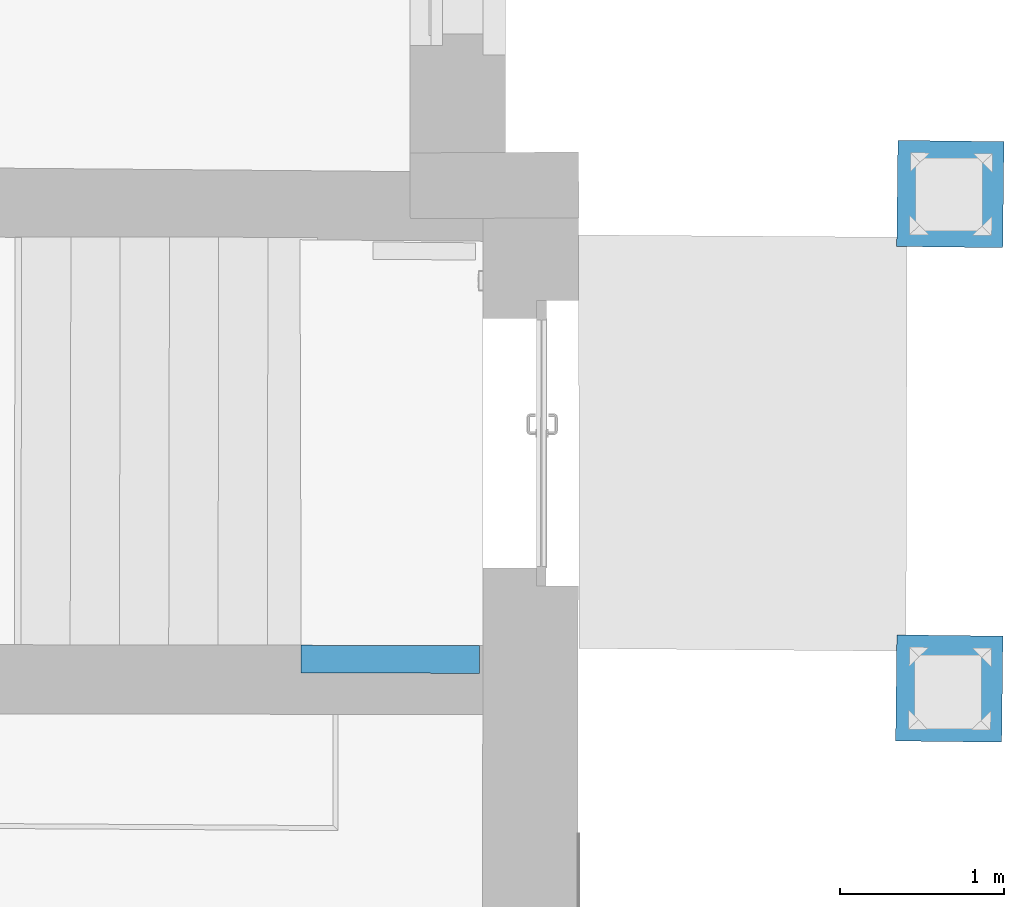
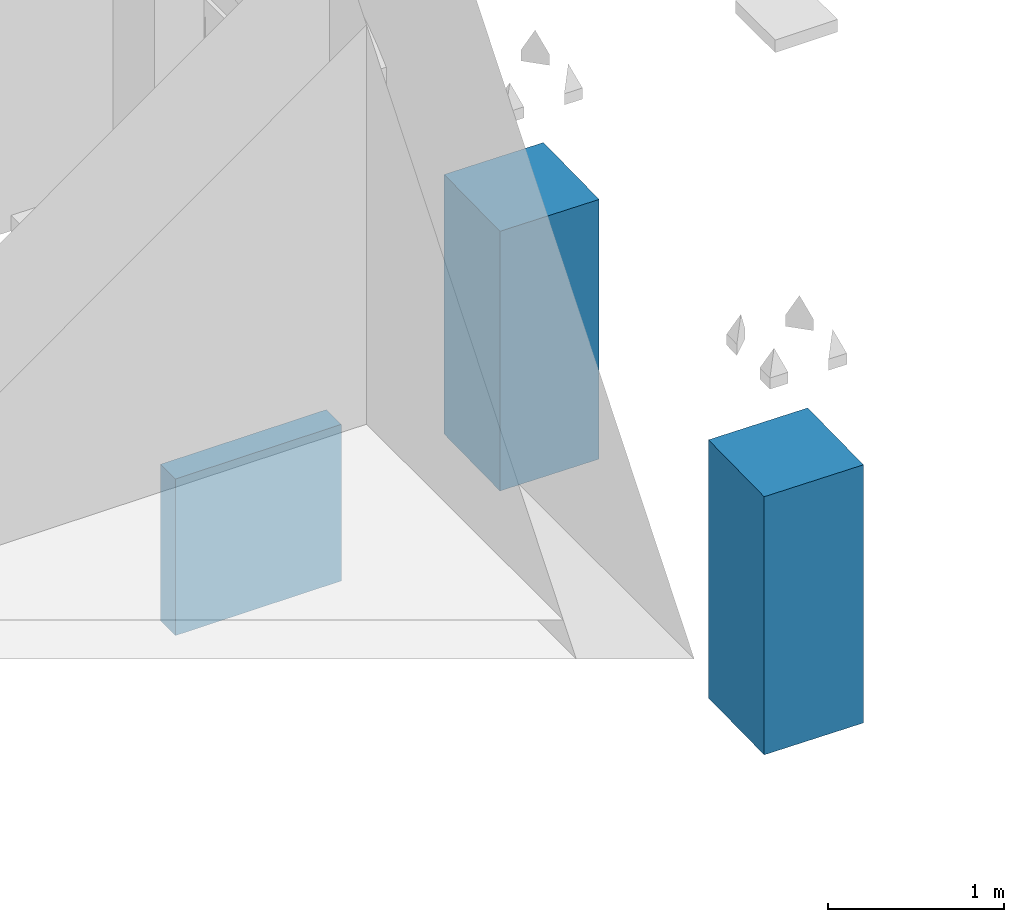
# One storey, part 2 of 158: 3 columns.
"""IFC2X3 building model written with IfcOpenShell, lengths in metres."""

from ifc_helpers import new_model, entity, si_unit, converted_unit, derived_unit, money_unit, direction, frame, origin_with_axes, origin_2d_with_axis, place, context, subcontext, project, spatial, rectangle, extrude, material, type_object, element, save


model = new_model("IFC2X3")

# Units and contexts
model_context = context("Model", 3, precision=1e-05, world=origin_with_axes(), true_north=direction((0.0, 1.0)))
body_context = subcontext(model_context, "Body", "Model", "MODEL_VIEW")
ifc_project = project(units=[si_unit("LENGTHUNIT", "METRE"), si_unit("AREAUNIT", "SQUARE_METRE"), si_unit("VOLUMEUNIT", "CUBIC_METRE"), converted_unit("PLANEANGLEUNIT", "DEGREE", entity("IfcPlaneAngleMeasure", 0.0174532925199), si_unit("PLANEANGLEUNIT", "RADIAN"), dimensions=[0, 0, 0, 0, 0, 0, 0]), money_unit("EUR"), converted_unit("TIMEUNIT", "Year", entity("IfcTimeMeasure", 31556926.0), si_unit("TIMEUNIT", "SECOND"), dimensions=[0, 0, 1, 0, 0, 0, 0]), si_unit("MASSUNIT", "GRAM", prefix="KILO"), si_unit("THERMODYNAMICTEMPERATUREUNIT", "DEGREE_CELSIUS"), si_unit("LUMINOUSINTENSITYUNIT", "LUMEN"), si_unit("ENERGYUNIT", "JOULE", prefix="MEGA"), derived_unit("THERMALCONDUCTANCEUNIT", [(si_unit("POWERUNIT", "WATT"), 1), (si_unit("LENGTHUNIT", "METRE"), -1), (si_unit("THERMODYNAMICTEMPERATUREUNIT", "KELVIN"), -1)]), derived_unit("SPECIFICHEATCAPACITYUNIT", [(si_unit("ENERGYUNIT", "JOULE"), 1), (si_unit("MASSUNIT", "GRAM", prefix="KILO"), -1), (si_unit("THERMODYNAMICTEMPERATUREUNIT", "KELVIN"), -1)]), derived_unit("MASSDENSITYUNIT", [(si_unit("MASSUNIT", "GRAM", prefix="KILO"), 1), (si_unit("VOLUMEUNIT", "CUBIC_METRE"), -1)])], contexts=[model_context])

# Site, building, storey
site_placement = place(None, origin_with_axes())
site = spatial("IfcSite", under=ifc_project, at=site_placement, Name="Gelände", CompositionType="ELEMENT")
building_placement = place(site_placement, origin_with_axes())
building = spatial("IfcBuilding", under=site, at=building_placement, Name="Gebäude", CompositionType="ELEMENT")
storey_placement = place(building_placement, origin_with_axes())
storey = spatial("IfcBuildingStorey", under=building, at=storey_placement, Name="ERDGESCHOSS", CompositionType="ELEMENT", Elevation=0.0)

# Columns
ifc_material = material(Name="05_ALLGEMEIN - TRAGENDE BAUTEILE")
column_type_1 = type_object("IfcColumnType", Name="05_ALLGEMEIN - TRAGENDE BAUTEILE 645 x 645", PredefinedType="USERDEFINED")
column_1_placement = place(storey_placement, frame((34.3745780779, 16.5420382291, -3.1), z_axis=(0.0, 0.0, 1.0), x_axis=(1.0, 0.0, 0.0)))
element("IfcColumn", 1, at=column_1_placement, inside=storey, type_object=column_type_1, material=ifc_material, Name="Stütze-008", ObjectType="PILASTER", context=body_context, shape_type="SweptSolid", body=[
    extrude(rectangle(XDim=0.645, YDim=0.645, at=origin_2d_with_axis()), frame((0.0, 0.0, 0.0), z_axis=(0.0, 0.0, 1.0), x_axis=(-0.999928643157, 0.0119460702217, 0.0)), (0.0, 0.0, 1.0), 1.78611748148),
])
column_2_placement = place(storey_placement, frame((34.3810297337, 19.5487603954, -3.1), z_axis=(0.0, 0.0, 1.0), x_axis=(1.0, 0.0, 0.0)))
element("IfcColumn", 2, at=column_2_placement, inside=storey, type_object=column_type_1, material=ifc_material, Name="Stütze-008", ObjectType="PILASTER", context=body_context, shape_type="SweptSolid", body=[
    extrude(rectangle(XDim=0.645, YDim=0.645, at=origin_2d_with_axis()), frame((0.0, 0.0, 0.0), z_axis=(0.0, 0.0, 1.0), x_axis=(-0.999928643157, 0.0119460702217, 0.0)), (0.0, 0.0, 1.0), 1.79665148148),
])
column_type_2 = type_object("IfcColumnType", Name="05_ALLGEMEIN - TRAGENDE BAUTEILE 1085 x 169", PredefinedType="USERDEFINED")
column_3_placement = place(storey_placement, frame((30.9762086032, 16.7199296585, -1.26), z_axis=(0.0, 0.0, 1.0), x_axis=(0.969832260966, 0.243773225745, 0.0)))
element("IfcColumn", 3, at=column_3_placement, inside=storey, type_object=column_type_2, material=ifc_material, Name="Stütze-009", ObjectType="PILASTER", context=body_context, shape_type="SweptSolid", body=[
    extrude(rectangle(XDim=1.08455781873, YDim=0.168964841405, at=origin_2d_with_axis()), frame((0.0, 0.0, 0.0), z_axis=(0.0, 0.0, 1.0), x_axis=(0.969394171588, -0.245509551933, 0.0)), (0.0, 0.0, 1.0), 1.08347335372),
])

save(model, "model.ifc")
